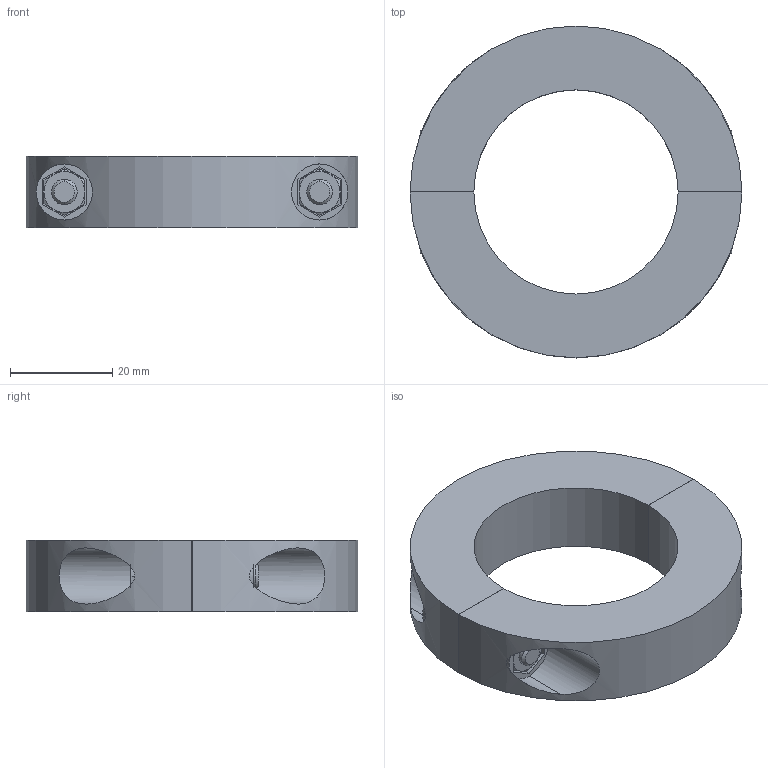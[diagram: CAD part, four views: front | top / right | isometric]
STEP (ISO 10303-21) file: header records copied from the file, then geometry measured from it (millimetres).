
FILE_DESCRIPTION (( 'STEP AP214' ), '1' );
FILE_NAME ('707.5-65-B40-SG.step', '2023-02-15T09:02:55', ( '' ), ( '' ), 'SwSTEP 2.0', 'SolidWorks 2022', '' );
FILE_SCHEMA (( 'AUTOMOTIVE_DESIGN' ));
Length unit declared in the file: millimetre
Products named in the file (1): 707.5-65-B40-SG
Bounding box: 65 x 65 x 14 mm (x, y, z)
Volume: 25502.9 mm3; surface area: 11685.2 mm2
Topology: 1 solids, 3 shells, 158 faces, 358 edges, 224 vertices
Faces by surface type: plane 84, cylinder 38, cone 32, torus 4
Entity records: 5598 total; most frequent: CARTESIAN_POINT 1269, ORIENTED_EDGE 716, DIRECTION 708, EDGE_CURVE 358, AXIS2_PLACEMENT_3D 257, VERTEX_POINT 224, LINE 194, VECTOR 194
